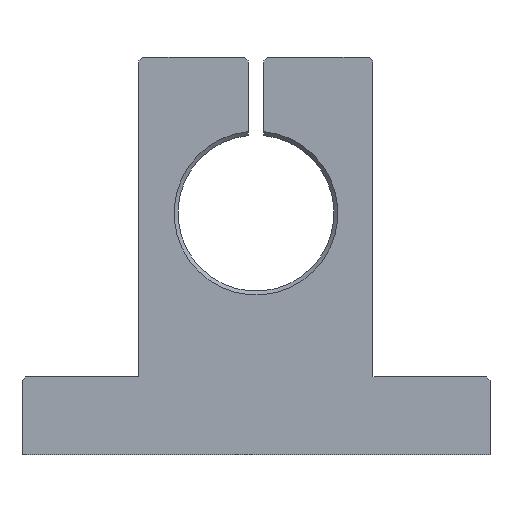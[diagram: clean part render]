
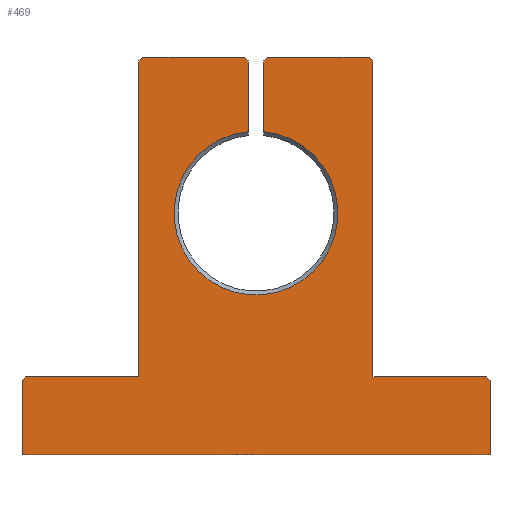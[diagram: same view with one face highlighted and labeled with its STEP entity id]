
A CAD part, left-side view. The second image highlights one B-rep face of the part: STEP entity #469.
In plain terms, the highlighted planar face has unit normal (-1, 0, 0).
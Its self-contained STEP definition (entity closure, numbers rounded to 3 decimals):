
#28=CIRCLE('',#514,10.5);
#40=FACE_OUTER_BOUND('',#64,.T.);
#64=EDGE_LOOP('',(#320,#321,#322,#323,#324,#325,#326,#327,#328,#329,#330,
#331,#332,#333,#334,#335,#336,#337));
#90=LINE('',#673,#144);
#94=LINE('',#681,#148);
#97=LINE('',#687,#151);
#98=LINE('',#691,#152);
#99=LINE('',#693,#153);
#100=LINE('',#695,#154);
#101=LINE('',#697,#155);
#102=LINE('',#699,#156);
#103=LINE('',#701,#157);
#104=LINE('',#703,#158);
#105=LINE('',#705,#159);
#106=LINE('',#707,#160);
#107=LINE('',#709,#161);
#108=LINE('',#711,#162);
#109=LINE('',#713,#163);
#110=LINE('',#715,#164);
#111=LINE('',#716,#165);
#144=VECTOR('',#549,10.);
#148=VECTOR('',#555,10.);
#151=VECTOR('',#560,10.);
#152=VECTOR('',#563,10.);
#153=VECTOR('',#564,10.);
#154=VECTOR('',#565,10.);
#155=VECTOR('',#566,10.);
#156=VECTOR('',#567,10.);
#157=VECTOR('',#568,10.);
#158=VECTOR('',#569,10.);
#159=VECTOR('',#570,10.);
#160=VECTOR('',#571,10.);
#161=VECTOR('',#572,10.);
#162=VECTOR('',#573,10.);
#163=VECTOR('',#574,10.);
#164=VECTOR('',#575,10.);
#165=VECTOR('',#576,10.);
#198=VERTEX_POINT('',#671);
#199=VERTEX_POINT('',#672);
#202=VERTEX_POINT('',#680);
#204=VERTEX_POINT('',#686);
#205=VERTEX_POINT('',#688);
#206=VERTEX_POINT('',#690);
#207=VERTEX_POINT('',#692);
#208=VERTEX_POINT('',#694);
#209=VERTEX_POINT('',#696);
#210=VERTEX_POINT('',#698);
#211=VERTEX_POINT('',#700);
#212=VERTEX_POINT('',#702);
#213=VERTEX_POINT('',#704);
#214=VERTEX_POINT('',#706);
#215=VERTEX_POINT('',#708);
#216=VERTEX_POINT('',#710);
#217=VERTEX_POINT('',#712);
#218=VERTEX_POINT('',#714);
#244=EDGE_CURVE('',#198,#199,#90,.T.);
#248=EDGE_CURVE('',#199,#202,#94,.T.);
#251=EDGE_CURVE('',#198,#204,#97,.T.);
#252=EDGE_CURVE('',#205,#204,#28,.T.);
#253=EDGE_CURVE('',#205,#206,#98,.T.);
#254=EDGE_CURVE('',#207,#206,#99,.T.);
#255=EDGE_CURVE('',#208,#207,#100,.T.);
#256=EDGE_CURVE('',#209,#208,#101,.T.);
#257=EDGE_CURVE('',#210,#209,#102,.T.);
#258=EDGE_CURVE('',#211,#210,#103,.T.);
#259=EDGE_CURVE('',#212,#211,#104,.T.);
#260=EDGE_CURVE('',#213,#212,#105,.T.);
#261=EDGE_CURVE('',#214,#213,#106,.T.);
#262=EDGE_CURVE('',#215,#214,#107,.T.);
#263=EDGE_CURVE('',#216,#215,#108,.T.);
#264=EDGE_CURVE('',#217,#216,#109,.T.);
#265=EDGE_CURVE('',#218,#217,#110,.T.);
#266=EDGE_CURVE('',#202,#218,#111,.T.);
#320=ORIENTED_EDGE('',*,*,#244,.F.);
#321=ORIENTED_EDGE('',*,*,#251,.T.);
#322=ORIENTED_EDGE('',*,*,#252,.F.);
#323=ORIENTED_EDGE('',*,*,#253,.T.);
#324=ORIENTED_EDGE('',*,*,#254,.F.);
#325=ORIENTED_EDGE('',*,*,#255,.F.);
#326=ORIENTED_EDGE('',*,*,#256,.F.);
#327=ORIENTED_EDGE('',*,*,#257,.F.);
#328=ORIENTED_EDGE('',*,*,#258,.F.);
#329=ORIENTED_EDGE('',*,*,#259,.F.);
#330=ORIENTED_EDGE('',*,*,#260,.F.);
#331=ORIENTED_EDGE('',*,*,#261,.F.);
#332=ORIENTED_EDGE('',*,*,#262,.F.);
#333=ORIENTED_EDGE('',*,*,#263,.F.);
#334=ORIENTED_EDGE('',*,*,#264,.F.);
#335=ORIENTED_EDGE('',*,*,#265,.F.);
#336=ORIENTED_EDGE('',*,*,#266,.F.);
#337=ORIENTED_EDGE('',*,*,#248,.F.);
#450=PLANE('',#513);
#469=ADVANCED_FACE('',(#40),#450,.F.);
#513=AXIS2_PLACEMENT_3D('',#685,#558,#559);
#514=AXIS2_PLACEMENT_3D('',#689,#561,#562);
#549=DIRECTION('',(0.,-0.707,0.707));
#555=DIRECTION('',(0.,-1.,0.));
#558=DIRECTION('center_axis',(1.,0.,0.));
#559=DIRECTION('ref_axis',(0.,0.,-1.));
#560=DIRECTION('',(0.,0.,-1.));
#561=DIRECTION('center_axis',(-1.,0.,0.));
#562=DIRECTION('ref_axis',(0.,0.,-1.));
#563=DIRECTION('',(0.,0.,1.));
#564=DIRECTION('',(0.,-0.707,-0.707));
#565=DIRECTION('',(0.,-1.,0.));
#566=DIRECTION('',(0.,-0.707,0.707));
#567=DIRECTION('',(0.,0.,1.));
#568=DIRECTION('',(0.,-1.,0.));
#569=DIRECTION('',(0.,-0.707,0.707));
#570=DIRECTION('',(0.,0.,1.));
#571=DIRECTION('',(0.,1.,0.));
#572=DIRECTION('',(0.,0.,-1.));
#573=DIRECTION('',(0.,-0.707,-0.707));
#574=DIRECTION('',(0.,-1.,0.));
#575=DIRECTION('',(0.,0.,-1.));
#576=DIRECTION('',(0.,-0.707,-0.707));
#671=CARTESIAN_POINT('',(0.,-1.,50.5));
#672=CARTESIAN_POINT('',(0.,-1.5,51.));
#673=CARTESIAN_POINT('',(0.,3.523,45.977));
#680=CARTESIAN_POINT('',(0.,-14.5,51.));
#681=CARTESIAN_POINT('',(0.,15.,51.));
#685=CARTESIAN_POINT('Origin',(0.,-11.204,21.704));
#686=CARTESIAN_POINT('',(0.,-1.,41.452));
#687=CARTESIAN_POINT('',(0.,-1.,25.478));
#688=CARTESIAN_POINT('',(0.,1.,41.452));
#689=CARTESIAN_POINT('Origin',(0.,0.,31.));
#690=CARTESIAN_POINT('',(0.,1.,50.5));
#691=CARTESIAN_POINT('',(0.,1.,38.931));
#692=CARTESIAN_POINT('',(0.,1.5,51.));
#693=CARTESIAN_POINT('',(0.,-9.125,40.375));
#694=CARTESIAN_POINT('',(0.,14.5,51.));
#695=CARTESIAN_POINT('',(0.,15.,51.));
#696=CARTESIAN_POINT('',(0.,15.,50.5));
#697=CARTESIAN_POINT('',(0.,15.523,49.977));
#698=CARTESIAN_POINT('',(0.,15.,10.));
#699=CARTESIAN_POINT('',(0.,15.,10.));
#700=CARTESIAN_POINT('',(0.,29.5,10.));
#701=CARTESIAN_POINT('',(0.,30.,10.));
#702=CARTESIAN_POINT('',(0.,30.,9.5));
#703=CARTESIAN_POINT('',(0.,16.523,22.977));
#704=CARTESIAN_POINT('',(0.,30.,0.));
#705=CARTESIAN_POINT('',(0.,30.,0.));
#706=CARTESIAN_POINT('',(0.,-30.,0.));
#707=CARTESIAN_POINT('',(0.,-30.,0.));
#708=CARTESIAN_POINT('',(0.,-30.,9.5));
#709=CARTESIAN_POINT('',(0.,-30.,10.));
#710=CARTESIAN_POINT('',(0.,-29.5,10.));
#711=CARTESIAN_POINT('',(0.,-22.125,17.375));
#712=CARTESIAN_POINT('',(0.,-15.,10.));
#713=CARTESIAN_POINT('',(0.,-15.,10.));
#714=CARTESIAN_POINT('',(0.,-15.,50.5));
#715=CARTESIAN_POINT('',(0.,-15.,51.));
#716=CARTESIAN_POINT('',(0.,-21.125,44.375));
